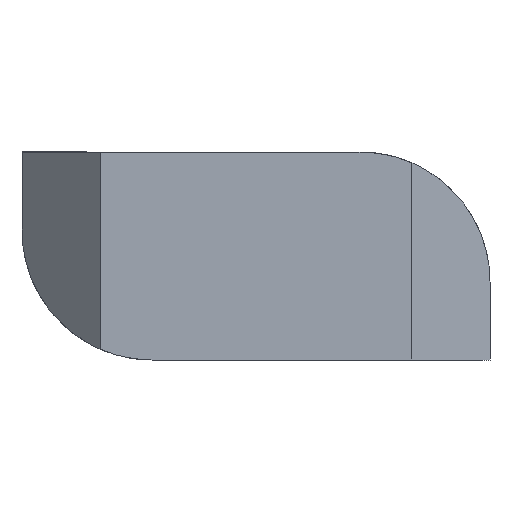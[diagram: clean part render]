
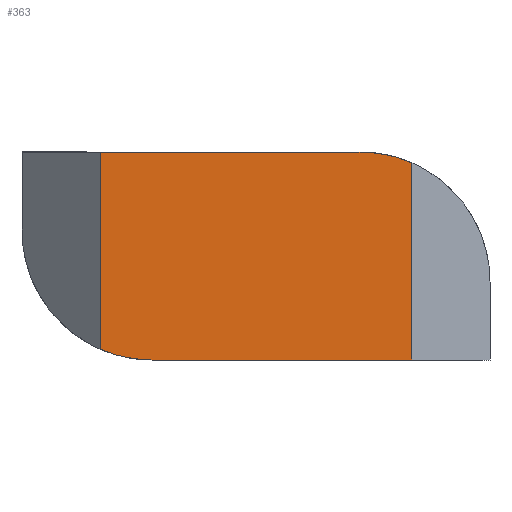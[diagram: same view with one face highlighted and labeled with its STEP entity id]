
A CAD part, front view. The second image highlights one B-rep face of the part: STEP entity #363.
In plain terms, the highlighted planar face has unit normal (0, -1, 0).
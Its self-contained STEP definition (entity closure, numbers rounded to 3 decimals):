
#160 = VERTEX_POINT ( 'NONE', #6325 ) ;
#219 = CIRCLE ( 'NONE', #5604, 5. ) ;
#363 = ADVANCED_FACE ( 'NONE', ( #3687 ), #5807, .F. ) ;
#445 = DIRECTION ( 'NONE',  ( 0., 0., 1. ) ) ;
#505 = VECTOR ( 'NONE', #5249, 1000. ) ;
#652 = ORIENTED_EDGE ( 'NONE', *, *, #974, .T. ) ;
#968 = EDGE_CURVE ( 'NONE', #1699, #3952, #6549, .T. ) ;
#974 = EDGE_CURVE ( 'NONE', #4355, #6660, #6363, .T. ) ;
#1212 = DIRECTION ( 'NONE',  ( 0., -1., 0. ) ) ;
#1219 = CARTESIAN_POINT ( 'NONE',  ( -6., 0., 4. ) ) ;
#1425 = EDGE_CURVE ( 'NONE', #6567, #160, #6754, .T. ) ;
#1434 = DIRECTION ( 'NONE',  ( 0., 0., 1. ) ) ;
#1529 = AXIS2_PLACEMENT_3D ( 'NONE', #4292, #3514, #2743 ) ;
#1699 = VERTEX_POINT ( 'NONE', #1728 ) ;
#1728 = CARTESIAN_POINT ( 'NONE',  ( -6., 0., -3.583 ) ) ;
#2198 = DIRECTION ( 'NONE',  ( 0., -1., 0. ) ) ;
#2325 = EDGE_LOOP ( 'NONE', ( #4994, #7369, #5030, #652, #4586, #4649 ) ) ;
#2743 = DIRECTION ( 'NONE',  ( 0., 0., 1. ) ) ;
#2769 = EDGE_CURVE ( 'NONE', #6660, #160, #219, .T. ) ;
#2847 = DIRECTION ( 'NONE',  ( 0., 0., -1. ) ) ;
#2952 = CARTESIAN_POINT ( 'NONE',  ( 4., 0., -1. ) ) ;
#2956 = CARTESIAN_POINT ( 'NONE',  ( -4., 0., -4. ) ) ;
#3050 = DIRECTION ( 'NONE',  ( -1., 0., 0. ) ) ;
#3342 = CARTESIAN_POINT ( 'NONE',  ( 6., 0., -4. ) ) ;
#3514 = DIRECTION ( 'NONE',  ( 0., 1., 0. ) ) ;
#3614 = CARTESIAN_POINT ( 'NONE',  ( -6., 0., 0. ) ) ;
#3680 = VECTOR ( 'NONE', #4856, 1000. ) ;
#3687 = FACE_OUTER_BOUND ( 'NONE', #2325, .T. ) ;
#3722 = VECTOR ( 'NONE', #3050, 1000. ) ;
#3841 = CARTESIAN_POINT ( 'NONE',  ( -9., 0., -4. ) ) ;
#3952 = VERTEX_POINT ( 'NONE', #2956 ) ;
#4268 = AXIS2_PLACEMENT_3D ( 'NONE', #4272, #1212, #445 ) ;
#4272 = CARTESIAN_POINT ( 'NONE',  ( -4., 0., 1. ) ) ;
#4292 = CARTESIAN_POINT ( 'NONE',  ( 0., 0., 0. ) ) ;
#4355 = VERTEX_POINT ( 'NONE', #3342 ) ;
#4372 = VECTOR ( 'NONE', #2847, 1000. ) ;
#4400 = LINE ( 'NONE', #3614, #4372 ) ;
#4586 = ORIENTED_EDGE ( 'NONE', *, *, #2769, .T. ) ;
#4599 = LINE ( 'NONE', #3841, #3722 ) ;
#4649 = ORIENTED_EDGE ( 'NONE', *, *, #1425, .F. ) ;
#4856 = DIRECTION ( 'NONE',  ( 0., 0., 1. ) ) ;
#4994 = ORIENTED_EDGE ( 'NONE', *, *, #7188, .T. ) ;
#5030 = ORIENTED_EDGE ( 'NONE', *, *, #6330, .F. ) ;
#5249 = DIRECTION ( 'NONE',  ( 1., 0., 0. ) ) ;
#5604 = AXIS2_PLACEMENT_3D ( 'NONE', #2952, #2198, #1434 ) ;
#5619 = CARTESIAN_POINT ( 'NONE',  ( 6., 0., 0. ) ) ;
#5807 = PLANE ( 'NONE',  #1529 ) ;
#6004 = CARTESIAN_POINT ( 'NONE',  ( -9., 0., 4. ) ) ;
#6325 = CARTESIAN_POINT ( 'NONE',  ( 4., 0., 4. ) ) ;
#6330 = EDGE_CURVE ( 'NONE', #4355, #3952, #4599, .T. ) ;
#6363 = LINE ( 'NONE', #5619, #3680 ) ;
#6549 = CIRCLE ( 'NONE', #4268, 5. ) ;
#6567 = VERTEX_POINT ( 'NONE', #1219 ) ;
#6660 = VERTEX_POINT ( 'NONE', #6983 ) ;
#6754 = LINE ( 'NONE', #6004, #505 ) ;
#6983 = CARTESIAN_POINT ( 'NONE',  ( 6., 0., 3.583 ) ) ;
#7188 = EDGE_CURVE ( 'NONE', #6567, #1699, #4400, .T. ) ;
#7369 = ORIENTED_EDGE ( 'NONE', *, *, #968, .T. ) ;
